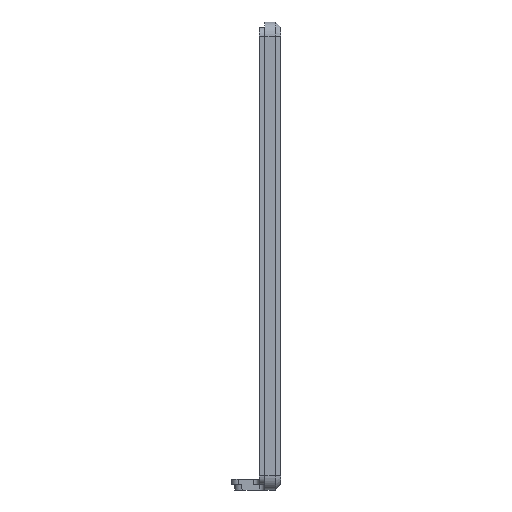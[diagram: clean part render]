
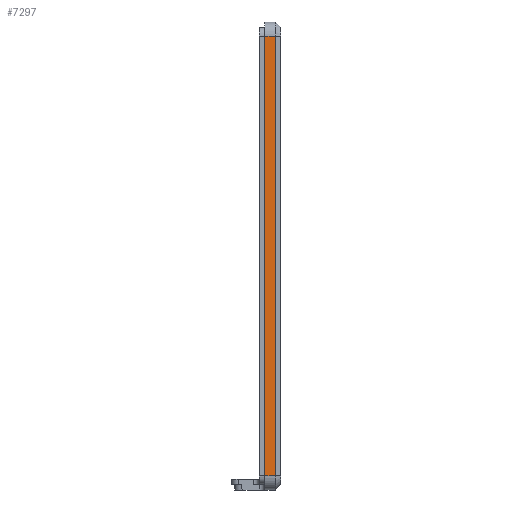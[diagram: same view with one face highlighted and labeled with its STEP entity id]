
A CAD part, left-side view. The second image highlights one B-rep face of the part: STEP entity #7297.
In plain terms, the highlighted planar face has unit normal (-1, 0, 0).
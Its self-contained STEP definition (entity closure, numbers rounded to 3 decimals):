
#2209=DIRECTION('',(0.,0.,-1.));
#2210=VECTOR('',#2209,122.);
#2211=CARTESIAN_POINT('',(-89.,-31.93,61.));
#2212=LINE('',#2211,#2210);
#2213=DIRECTION('',(0.,1.,0.));
#2214=VECTOR('',#2213,3.);
#2215=CARTESIAN_POINT('',(-89.,-31.93,-61.));
#2216=LINE('',#2215,#2214);
#2217=DIRECTION('',(0.,0.,1.));
#2218=VECTOR('',#2217,122.);
#2219=CARTESIAN_POINT('',(-89.,-28.93,-61.));
#2220=LINE('',#2219,#2218);
#2226=DIRECTION('',(0.,1.,0.));
#2227=VECTOR('',#2226,3.);
#2228=CARTESIAN_POINT('',(-89.,-31.93,61.));
#2229=LINE('',#2228,#2227);
#4838=CARTESIAN_POINT('',(-89.,-28.93,-61.));
#4839=CARTESIAN_POINT('',(-89.,-28.93,61.));
#4840=VERTEX_POINT('',#4838);
#4841=VERTEX_POINT('',#4839);
#4906=CARTESIAN_POINT('',(-89.,-31.93,-61.));
#4908=VERTEX_POINT('',#4906);
#4932=CARTESIAN_POINT('',(-89.,-31.93,61.));
#4933=VERTEX_POINT('',#4932);
#7285=CARTESIAN_POINT('',(-89.,-26.005,0.));
#7286=DIRECTION('',(1.,0.,0.));
#7287=DIRECTION('',(0.,0.,1.));
#7288=AXIS2_PLACEMENT_3D('',#7285,#7286,#7287);
#7289=PLANE('',#7288);
#7290=ORIENTED_EDGE('',*,*,#7240,.T.);
#7291=ORIENTED_EDGE('',*,*,#7280,.T.);
#7292=ORIENTED_EDGE('',*,*,#7130,.T.);
#7294=ORIENTED_EDGE('',*,*,#7293,.F.);
#7295=EDGE_LOOP('',(#7290,#7291,#7292,#7294));
#7296=FACE_OUTER_BOUND('',#7295,.F.);
#7130=EDGE_CURVE('',#4840,#4841,#2220,.T.);
#7240=EDGE_CURVE('',#4933,#4908,#2212,.T.);
#7280=EDGE_CURVE('',#4908,#4840,#2216,.T.);
#7293=EDGE_CURVE('',#4933,#4841,#2229,.T.);
#7297=ADVANCED_FACE('',(#7296),#7289,.F.);
